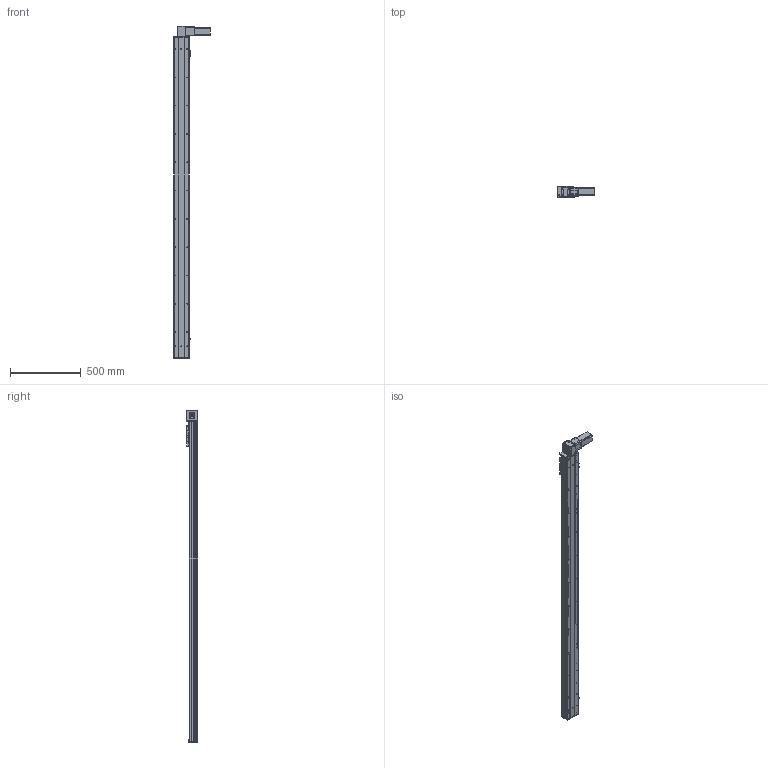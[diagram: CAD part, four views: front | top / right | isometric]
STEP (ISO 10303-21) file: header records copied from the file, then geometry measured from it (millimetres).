
FILE_DESCRIPTION (( 'STEP AP203' ), '1' );
FILE_NAME ('Y10CB-D90-S2000-BD-P400W.STEP', '2020-02-17T02:54:21', ( '微软用户' ), ( '微软中国' ), 'SwSTEP 2.0', 'SolidWorks 2017', '' );
FILE_SCHEMA (( 'CONFIG_CONTROL_DESIGN' ));
Length unit declared in the file: millimetre
Products named in the file (16): Y100-135俋离換覜ん--; 0B-源倛裔啣; Y10B--々湍喘謫眊--666; 0B-埴倛裔啣; 0B-薊粣ん眊; 10CB-詩湍-; Y10CB-D90-S2000-BD-P400W; Y10CB- 掛极耜裔啣-毀---; Y10C---詩湍揤啣; 0CB-雄赽釱---; 10CB9-掛极; 0Cb-俋欶---; 10CB-耜裔; Y10B-々湍喘謫眊楊擘啣--; Y135C-陔俋离換覜結え-; san松下电机400不带刹车----
Assembly tree (19 placements, depth 2):
  Y10CB-D90-S2000-BD-P400W
    0CB-雄赽釱---
    0Cb-俋欶---
    Y10B-々湍喘謫眊楊擘啣--
    san松下电机400不带刹车----
    0B-源倛裔啣
    0B-埴倛裔啣
    10CB-詩湍-
    Y10CB- 掛极耜裔啣-毀---  x2
    Y10C---詩湍揤啣  x2
    10CB9-掛极
    10CB-耜裔
    Y135C-陔俋离換覜結え-
    Y100-135俋离換覜ん--  x3
    Y10B--々湍喘謫眊--666
    0B-薊粣ん眊
Bounding box: 258 x 80.5 x 2346 mm (x, y, z)
Volume: 4881187.4 mm3; surface area: 2248224.4 mm2
Topology: 19 solids, 19 shells, 960 faces, 2582 edges, 1676 vertices
Faces by surface type: cylinder 490, plane 446, cone 24
Entity records: 30069 total; most frequent: CARTESIAN_POINT 5644, DIRECTION 4797, ORIENTED_EDGE 4634, EDGE_CURVE 2317, AXIS2_PLACEMENT_3D 1719, VERTEX_POINT 1502, VECTOR 1359, LINE 1359
